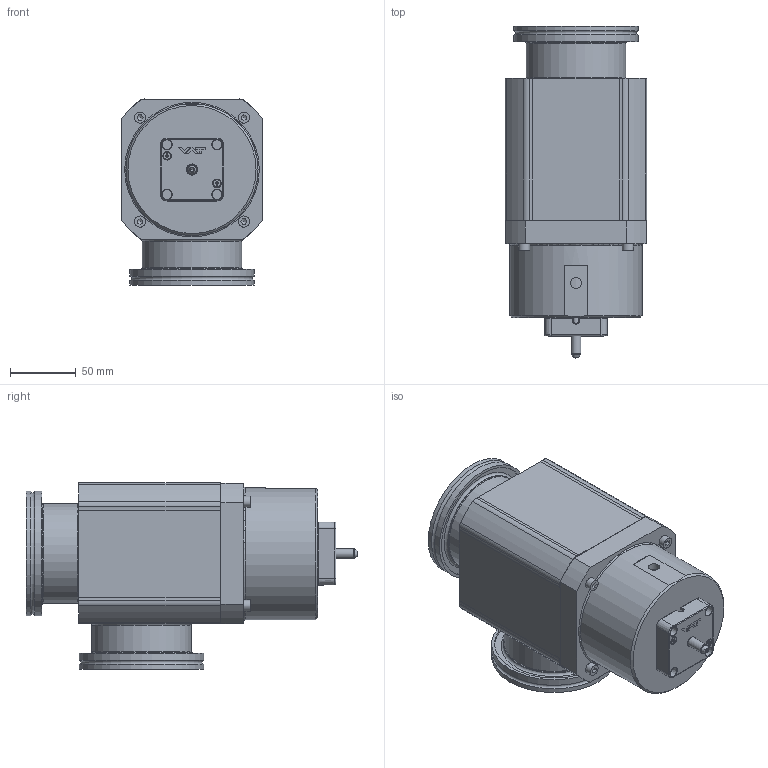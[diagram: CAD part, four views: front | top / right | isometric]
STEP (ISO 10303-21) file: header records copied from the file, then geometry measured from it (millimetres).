
FILE_DESCRIPTION(/* description */ (''),/* implementation_level */ '2;1');
FILE_NAME(/* name */ '1028565145_203.stp',/* time_stamp */ '2020-12-14T14:30:04+01:00',/* author */ (''),/* organization */ (''),/* preprocessor_version */ 'ST-DEVELOPER v16.7',/* originating_system */ 'SIEMENS PLM Software NX 1915',/* authorisation */ '');
FILE_SCHEMA (('AP203_CONFIGURATION_CONTROLLED_3D_DESIGN_OF_MECHANICAL_PARTS_AND_ASSEMBLIES_MIM_LF { 1 0 10303 403 2 1 2}'));
Length unit declared in the file: millimetre
Products named in the file (9): 233359; 236204_1.1; 414761_29284ID; 322064.8; 475883; 224796.1; 239983.3; 459840_MODEL; 1066898
Assembly tree (12 placements, depth 3):
  1066898
    459840_MODEL
      414761_29284ID
    224796.1  x4
    475883
    322064.8
    239983.3
      236204_1.1  x2
      233359
Bounding box: 107.6 x 252.9 x 141.8 mm (x, y, z)
Volume: 930568.7 mm3; surface area: 226561.7 mm2
Topology: 18 solids, 18 shells, 523 faces, 1296 edges, 844 vertices
Faces by surface type: plane 290, cylinder 131, cone 66, torus 19, bspline 17
Full cylindrical faces by diameter (mm): 2.5 x2, 3 x4, 3.1 x1, 4.16 x4, 4.2 x8, 4.6 x1, 4.7 x2, 5 x8, 5.5 x4, 5.6 x2, 7.4 x1, 8 x1, 8.5 x4, 8.566 x1, 10.1 x1, 12 x1, 15.255 x2, 15.975 x3, 16.015 x2, 17.85 x1, 20.565 x1, 34 x1, 63 x2, 70.095 x2, 76 x2, 77 x2, 88.05 x1, 90.4 x2, 93 x1, 94.89 x4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
Entity records: 14293 total; most frequent: CARTESIAN_POINT 2923, DIRECTION 2183, ORIENTED_EDGE 1988, EDGE_CURVE 994, AXIS2_PLACEMENT_3D 800, VERTEX_POINT 719, EDGE_LOOP 629, LINE 583
